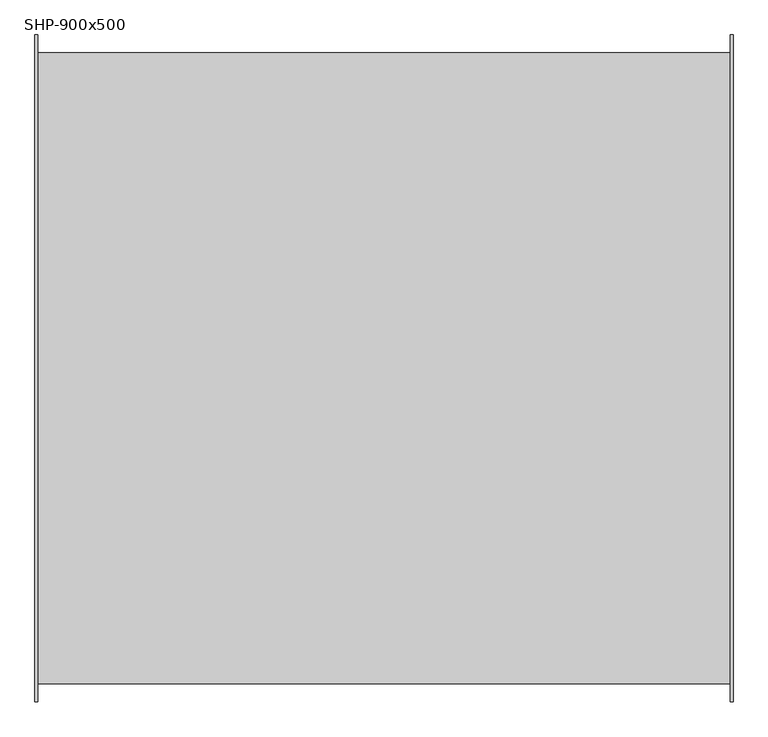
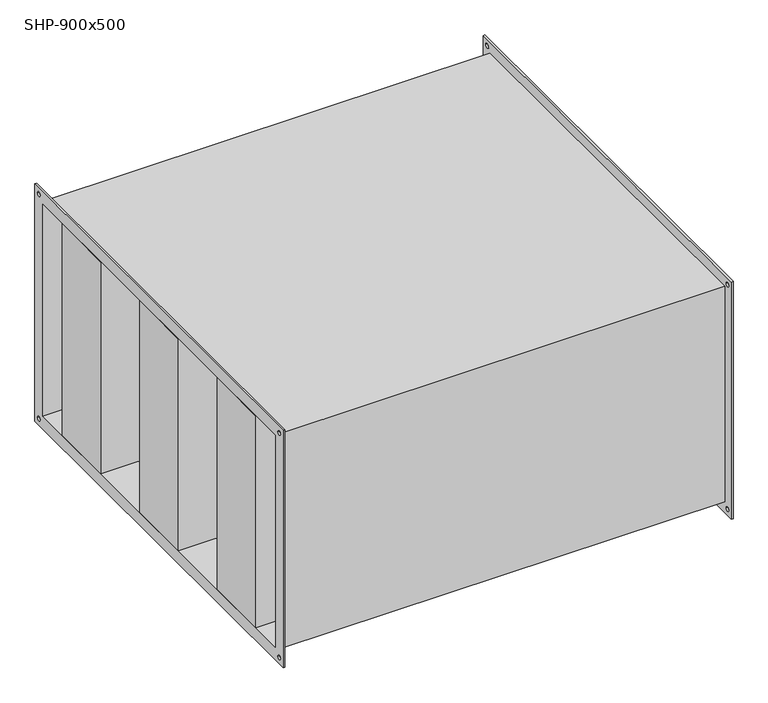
"""IFC4 building model written with IfcOpenShell, lengths in millimetres: damper geometry, СВ_Шумоглушитель_КанальныйПрямоугольный_200-1000_SHP : SHP-900x500."""

import ifcopenshell
import ifcopenshell.guid

model = None  # the IFC model being written
_history = None  # IfcOwnerHistory: only IFC2X3 demands one
_inside = {}  # id of a spatial element -> (the spatial element, [elements in it])
_under = {}  # id of a project, library or spatial element -> (it, [spatial elements below it])
_declared = {}  # id of a project -> (the project, [libraries it declares])
_typed = {}  # id of a type object -> (the type object, [elements of that type])
_made_of = {}  # id of a material, layer set ... -> (it, [elements and type objects made of it])


def new_model(schema):
    """Start an empty IFC model of exactly this schema.

    Asked for "IFC4X3", IfcOpenShell would pick the latest addendum, in which some entities
    have other attributes; the version numbers below select the first issue.
    IFC2X3 requires an IfcOwnerHistory on every rooted entity: one is made here for all.
    """
    global model, _history
    if schema == "IFC4X3":
        model = ifcopenshell.file(schema_version=(4, 3, 0, 0))
    else:
        model = ifcopenshell.file(schema=schema)
    _inside.clear()
    _under.clear()
    _declared.clear()
    _typed.clear()
    _made_of.clear()
    _history = None
    if model.schema == "IFC2X3":
        org = make("IfcOrganization", Name="unknown")
        user = make(
            "IfcPersonAndOrganization",
            ThePerson=make("IfcPerson", FamilyName="unknown"),
            TheOrganization=org,
        )
        app = make(
            "IfcApplication",
            ApplicationDeveloper=org,
            Version="unknown",
            ApplicationFullName="unknown",
            ApplicationIdentifier="unknown",
        )
        _history = make(
            "IfcOwnerHistory",
            OwningUser=user,
            OwningApplication=app,
            ChangeAction="ADDED",
            CreationDate=0,
        )
    return model


def make(cls, **values):
    """One entity of the class cls with the attributes given. An attribute that is None is left unset."""
    return model.create_entity(
        cls, **{name: value for name, value in values.items() if value is not None}
    )


def rooted(cls, **values):
    """An entity with a GlobalId (a new one), such as an element, a storey or a relation."""
    return make(cls, GlobalId=ifcopenshell.guid.new(), OwnerHistory=_history, **values)


def si_unit(unit_type, name, prefix=None):
    """IfcSIUnit, for example si_unit("LENGTHUNIT", "METRE", prefix="MILLI")."""
    return make("IfcSIUnit", UnitType=unit_type, Prefix=prefix, Name=name)


def assignment(units):
    """IfcUnitAssignment: the units of a project."""
    return None if units is None else make("IfcUnitAssignment", Units=units)


def point(xyz):
    """IfcCartesianPoint."""
    return None if xyz is None else make("IfcCartesianPoint", Coordinates=xyz)


def direction(xyz):
    """IfcDirection."""
    return None if xyz is None else make("IfcDirection", DirectionRatios=xyz)


def frame(location, z_axis=None, x_axis=None):
    """IfcAxis2Placement3D, a coordinate frame: its origin and axes. An axis left out is left unset."""
    return make(
        "IfcAxis2Placement3D",
        Location=point(location),
        Axis=direction(z_axis),
        RefDirection=direction(x_axis),
    )


def origin():
    """The frame at (0, 0, 0) with its axes left unset."""
    return frame((0.0, 0.0, 0.0))


def place(relative_to, where):
    """IfcLocalPlacement: puts the frame where relative to a parent placement (None: the world)."""
    return make(
        "IfcLocalPlacement", PlacementRelTo=relative_to, RelativePlacement=where
    )


def context(
    kind, dimensions, precision=None, world=None, true_north=None, identifier=None
):
    """IfcGeometricRepresentationContext, for example the 3D "Model" context."""
    return make(
        "IfcGeometricRepresentationContext",
        ContextIdentifier=identifier,
        ContextType=kind,
        CoordinateSpaceDimension=dimensions,
        Precision=precision,
        WorldCoordinateSystem=world,
        TrueNorth=true_north,
    )


def project(units=None, contexts=None):
    """IfcProject with its units and contexts."""
    return rooted(
        "IfcProject",
        Name="project",
        RepresentationContexts=contexts,
        UnitsInContext=assignment(units),
    )


def spatial(cls, under=None, at=None, **own):
    """A site, building, storey or space (cls), placed at a placement, below another one or the project."""
    s = rooted(cls, ObjectPlacement=at, **own)
    if under is not None:
        _under.setdefault(under.id(), (under, []))[1].append(s)
    return s


def polyline(points):
    """IfcPolyline through the points."""
    return make("IfcPolyline", Points=[point(p) for p in points])


def circle_curve(where, radius):
    """IfcCircle in the frame where."""
    return make("IfcCircle", Position=where, Radius=radius)


def outline(outer, holes=None, kind="AREA"):
    """IfcArbitraryClosedProfileDef: a profile drawn as a closed curve; with holes, ...WithVoids."""
    if holes is None:
        return make("IfcArbitraryClosedProfileDef", ProfileType=kind, OuterCurve=outer)
    return make(
        "IfcArbitraryProfileDefWithVoids",
        ProfileType=kind,
        OuterCurve=outer,
        InnerCurves=holes,
    )


def extrude(swept, where, along, depth):
    """IfcExtrudedAreaSolid: the profile swept, set in the frame where, extruded along a direction by depth."""
    return make(
        "IfcExtrudedAreaSolid",
        SweptArea=swept,
        Position=where,
        ExtrudedDirection=direction(along),
        Depth=depth,
    )


def shape(context_of_items, identifier, shape_type, items):
    """IfcShapeRepresentation: the items that make up one representation, for example the "Body"."""
    return make(
        "IfcShapeRepresentation",
        ContextOfItems=context_of_items,
        RepresentationIdentifier=identifier,
        RepresentationType=shape_type,
        Items=items,
    )


def source(mapping_origin, context_of_items, identifier, shape_type, items):
    """IfcRepresentationMap: a shape defined once, which mapped items show again and again."""
    return make(
        "IfcRepresentationMap",
        MappingOrigin=mapping_origin,
        MappedRepresentation=shape(context_of_items, identifier, shape_type, items),
    )


def transform(
    local_origin,
    x_axis=None,
    y_axis=None,
    z_axis=None,
    scale=None,
    scale2=None,
    scale3=None,
    uniform=True,
):
    """IfcCartesianTransformationOperator3D, or its non-uniform kind. x_axis, y_axis, z_axis: its Axis1, 2, 3."""
    if uniform:
        return make(
            "IfcCartesianTransformationOperator3D",
            Axis1=direction(x_axis),
            Axis2=direction(y_axis),
            LocalOrigin=point(local_origin),
            Scale=scale,
            Axis3=direction(z_axis),
        )
    return make(
        "IfcCartesianTransformationOperator3DnonUniform",
        Axis1=direction(x_axis),
        Axis2=direction(y_axis),
        LocalOrigin=point(local_origin),
        Scale=scale,
        Axis3=direction(z_axis),
        Scale2=scale2,
        Scale3=scale3,
    )


def mapped(mapping_source, mapping_target):
    """IfcMappedItem: shows the shape of a source again, moved by a transform."""
    return make(
        "IfcMappedItem", MappingSource=mapping_source, MappingTarget=mapping_target
    )


def made_of(thing, what):
    """Note that an element or type object is made of a material, layer set ...; save() writes the relation."""
    if what is not None:
        _made_of.setdefault(what.id(), (what, []))[1].append(thing)
    return thing


def element(
    cls,
    number,
    at=None,
    inside=None,
    cuts=None,
    type_object=None,
    material=None,
    context=None,
    identifier="Body",
    shape_type=None,
    held_by="IfcProductDefinitionShape",
    body=None,
    shapes=None,
    **own,
):
    """One element of the class cls, such as IfcWall. Its Tag is "e" and its number.

    at: its placement. inside: the storey or other place that contains it. cuts: it is an
    opening in that element (IfcRelVoidsElement). A single representation is given by context,
    identifier, shape_type and body (its items); several are given by shapes. held_by: the class
    of the entity that holds the representations. save() writes the other relations.
    """
    e = rooted(cls, Tag="e%d" % number, ObjectPlacement=at, **own)
    if body is not None:
        shapes = [shape(context, identifier, shape_type, body)]
    if shapes is not None:
        e.Representation = make(held_by, Representations=shapes)
    if inside is not None:
        _inside.setdefault(inside.id(), (inside, []))[1].append(e)
    if cuts is not None:
        rooted(
            "IfcRelVoidsElement", RelatingBuildingElement=cuts, RelatedOpeningElement=e
        )
    if type_object is not None:
        _typed.setdefault(type_object.id(), (type_object, []))[1].append(e)
    return made_of(e, material)


def aggregate(whole, parts):
    """IfcRelAggregates: a whole, such as a stair, and the parts it consists of."""
    return rooted("IfcRelAggregates", RelatingObject=whole, RelatedObjects=parts)


def save(model, path):
    """Write the relations noted so far, then the file.

    IfcRelAggregates (storeys below a building ...), IfcRelContainedInSpatialStructure (elements
    in a storey), IfcRelDefinesByType, IfcRelAssociatesMaterial and IfcRelDeclares: one each for
    every whole, place, type object, material and project.
    """
    for whole, parts in _under.values():
        aggregate(whole, parts)
    for where, things in _inside.values():
        rooted(
            "IfcRelContainedInSpatialStructure",
            RelatedElements=things,
            RelatingStructure=where,
        )
    for kind, things in _typed.values():
        rooted("IfcRelDefinesByType", RelatedObjects=things, RelatingType=kind)
    for what, things in _made_of.values():
        rooted("IfcRelAssociatesMaterial", RelatedObjects=things, RelatingMaterial=what)
    for by, libraries in _declared.values():
        rooted("IfcRelDeclares", RelatingContext=by, RelatedDefinitions=libraries)
    model.write(path)


def plane_surface(at):
    """IfcPlane: the flat surface through the origin of the frame at, square to its z axis."""
    return make("IfcPlane", Position=at)


def revolved_surface(curve, axis_point, axis_direction):
    """IfcSurfaceOfRevolution: the curve turned about the line through axis_point along axis_direction."""
    return make(
        "IfcSurfaceOfRevolution",
        SweptCurve=make("IfcArbitraryOpenProfileDef", ProfileType="CURVE", Curve=curve),
        AxisPosition=make("IfcAxis1Placement", Location=point(axis_point), Axis=direction(axis_direction)),
    )


def advanced_brep(points, edges, surfaces, faces):
    """IfcAdvancedBrep: a solid bounded by faces that lie on surfaces and meet in shared edges.

    An edge is (start, end): straight between two places in points (the first is 0);
    or (start, end, curve); or (start, end, curve, False) where it runs against its curve.
    A face is (place in surfaces, loops), or (place, loops, False) where it looks against
    its surface's normal. A loop lists edges by number (the first is 1), with a minus sign
    where the edge is run from its end to its start. The first loop is the outer one.
    """
    corners = [point(p) for p in points]
    vertices = [make("IfcVertexPoint", VertexGeometry=c) for c in corners]
    made = []
    for start, end, *more in edges:
        made.append(
            make(
                "IfcEdgeCurve",
                EdgeStart=vertices[start],
                EdgeEnd=vertices[end],
                EdgeGeometry=more[0] if more else make("IfcPolyline", Points=[corners[start], corners[end]]),
                SameSense=more[1] if len(more) > 1 else True,
            )
        )
    hull = []
    for where, loops, *sense in faces:
        bounds = []
        for j, loop in enumerate(loops):
            ring = [make("IfcOrientedEdge", EdgeElement=made[abs(k) - 1], Orientation=k > 0) for k in loop]
            bounds.append(
                make(
                    "IfcFaceOuterBound" if j == 0 else "IfcFaceBound",
                    Bound=make("IfcEdgeLoop", EdgeList=ring),
                    Orientation=True,
                )
            )
        hull.append(make("IfcAdvancedFace", Bounds=bounds, FaceSurface=surfaces[where], SameSense=sense[0] if sense else True))
    return make("IfcAdvancedBrep", Outer=make("IfcClosedShell", CfsFaces=hull))


def shp_900x500_852b0d35(model_context):
    return source(origin(), model_context, "Body", "SolidModel", [
        extrude(outline(polyline([(502.5, 375.0), (502.5, 225.0), (-502.5, 225.0), (-502.5, 375.0), (502.5, 375.0)])), frame((0.0, 0.0, -250.0), z_axis=(0.0, 0.0, 1.0), x_axis=(1.0, 0.0, 0.0)), (0.0, 0.0, 1.0), 500.0),
        extrude(outline(polyline([(502.5, 75.0), (502.5, -75.0), (-502.5, -75.0), (-502.5, 75.0), (502.5, 75.0)])), frame((0.0, 0.0, -250.0), z_axis=(0.0, 0.0, 1.0), x_axis=(1.0, 0.0, 0.0)), (0.0, 0.0, 1.0), 500.0),
        extrude(outline(polyline([(502.5, -225.0), (502.5, -375.0), (-502.5, -375.0), (-502.5, -225.0), (502.5, -225.0)])), frame((0.0, 0.0, -250.0), z_axis=(0.0, 0.0, 1.0), x_axis=(1.0, 0.0, 0.0)), (0.0, 0.0, 1.0), 500.0),
        advanced_brep(
        [(498.5, -454.0, 254.0), (-498.5, -454.0, 254.0), (-498.5, -454.0, -254.0), (498.5, -454.0, -254.0), (-498.5, 454.0, -254.0), (498.5, 454.0, -254.0), (-498.5, 454.0, 254.0), (498.5, 454.0, 254.0), (-502.5, -480.0, 280.0), (-502.5, 480.0, 280.0), (-502.5, 480.0, -280.0), (-502.5, -480.0, -280.0), (-502.5, -450.0, 250.0), (-502.5, -450.0, -250.0), (-502.5, 450.0, -250.0), (-502.5, 450.0, 250.0), (-502.5, 460.0, 265.0), (-502.5, 470.0, 265.0), (-502.5, -470.0, 265.0), (-502.5, -460.0, 265.0), (-502.5, -470.0, -265.0), (-502.5, -460.0, -265.0), (-502.5, 460.0, -265.0), (-502.5, 470.0, -265.0), (-498.5, -480.0, 280.0), (-498.5, -480.0, -280.0), (-498.5, 480.0, -280.0), (-498.5, 480.0, 280.0), (-498.5, 470.0, 265.0), (-498.5, 460.0, 265.0), (-498.5, -460.0, 265.0), (-498.5, -470.0, 265.0), (-498.5, -460.0, -265.0), (-498.5, -470.0, -265.0), (-498.5, 470.0, -265.0), (-498.5, 460.0, -265.0), (498.5, 480.0, 280.0), (498.5, 480.0, -280.0), (498.5, -480.0, -280.0), (498.5, -480.0, 280.0), (498.5, 460.0, 265.0), (498.5, 470.0, 265.0), (498.5, -470.0, 265.0), (498.5, -460.0, 265.0), (498.5, -470.0, -265.0), (498.5, -460.0, -265.0), (498.5, 460.0, -265.0), (498.5, 470.0, -265.0), (502.5, 480.0, 280.0), (502.5, -480.0, 280.0), (502.5, -480.0, -280.0), (502.5, 480.0, -280.0), (502.5, 450.0, 250.0), (502.5, 450.0, -250.0), (502.5, -450.0, -250.0), (502.5, -450.0, 250.0), (502.5, 470.0, 265.0), (502.5, 460.0, 265.0), (502.5, -460.0, 265.0), (502.5, -470.0, 265.0), (502.5, -460.0, -265.0), (502.5, -470.0, -265.0), (502.5, 470.0, -265.0), (502.5, 460.0, -265.0)],
        [
            (0, 1),
            (1, 2),
            (2, 3),
            (3, 0),
            (2, 4),
            (4, 5),
            (5, 3),
            (4, 6),
            (6, 7),
            (7, 5),
            (0, 7),
            (6, 1),
            (8, 9),
            (9, 10),
            (10, 11),
            (11, 8),
            (12, 13),
            (13, 14),
            (14, 15),
            (15, 12),
            (16, 17, circle_curve(frame((-502.5, 465.0, 265.0), z_axis=(1.0, 0.0, 0.0), x_axis=(0.0, 1.0, 0.0)), 5.0)),
            (17, 16, circle_curve(frame((-502.5, 465.0, 265.0), z_axis=(1.0, 0.0, 0.0), x_axis=(0.0, 1.0, 0.0)), 5.0)),
            (18, 19, circle_curve(frame((-502.5, -465.0, 265.0), z_axis=(1.0, 0.0, 0.0), x_axis=(0.0, 1.0, 0.0)), 5.0)),
            (19, 18, circle_curve(frame((-502.5, -465.0, 265.0), z_axis=(1.0, 0.0, 0.0), x_axis=(0.0, 1.0, 0.0)), 5.0)),
            (20, 21, circle_curve(frame((-502.5, -465.0, -265.0), z_axis=(1.0, 0.0, 0.0), x_axis=(0.0, 1.0, 0.0)), 5.0)),
            (21, 20, circle_curve(frame((-502.5, -465.0, -265.0), z_axis=(1.0, 0.0, 0.0), x_axis=(0.0, 1.0, 0.0)), 5.0)),
            (22, 23, circle_curve(frame((-502.5, 465.0, -265.0), z_axis=(1.0, 0.0, 0.0), x_axis=(0.0, 1.0, 0.0)), 5.0)),
            (23, 22, circle_curve(frame((-502.5, 465.0, -265.0), z_axis=(1.0, 0.0, 0.0), x_axis=(0.0, 1.0, 0.0)), 5.0)),
            (24, 25),
            (25, 26),
            (26, 27),
            (27, 24),
            (28, 29, circle_curve(frame((-498.5, 465.0, 265.0), z_axis=(-1.0, 0.0, 0.0), x_axis=(0.0, 1.0, 0.0)), 5.0)),
            (29, 28, circle_curve(frame((-498.5, 465.0, 265.0), z_axis=(-1.0, 0.0, 0.0), x_axis=(0.0, 1.0, 0.0)), 5.0)),
            (30, 31, circle_curve(frame((-498.5, -465.0, 265.0), z_axis=(-1.0, 0.0, 0.0), x_axis=(0.0, 1.0, 0.0)), 5.0)),
            (31, 30, circle_curve(frame((-498.5, -465.0, 265.0), z_axis=(-1.0, 0.0, 0.0), x_axis=(0.0, 1.0, 0.0)), 5.0)),
            (32, 33, circle_curve(frame((-498.5, -465.0, -265.0), z_axis=(-1.0, 0.0, 0.0), x_axis=(0.0, 1.0, 0.0)), 5.0)),
            (33, 32, circle_curve(frame((-498.5, -465.0, -265.0), z_axis=(-1.0, 0.0, 0.0), x_axis=(0.0, 1.0, 0.0)), 5.0)),
            (34, 35, circle_curve(frame((-498.5, 465.0, -265.0), z_axis=(-1.0, 0.0, 0.0), x_axis=(0.0, 1.0, 0.0)), 5.0)),
            (35, 34, circle_curve(frame((-498.5, 465.0, -265.0), z_axis=(-1.0, 0.0, 0.0), x_axis=(0.0, 1.0, 0.0)), 5.0)),
            (11, 25),
            (24, 8),
            (10, 26),
            (9, 27),
            (36, 37),
            (37, 38),
            (38, 39),
            (39, 36),
            (40, 41, circle_curve(frame((498.5, 465.0, 265.0), z_axis=(1.0, 0.0, 0.0), x_axis=(0.0, 1.0, 0.0)), 5.0)),
            (41, 40, circle_curve(frame((498.5, 465.0, 265.0), z_axis=(1.0, 0.0, 0.0), x_axis=(0.0, 1.0, 0.0)), 5.0)),
            (42, 43, circle_curve(frame((498.5, -465.0, 265.0), z_axis=(1.0, 0.0, 0.0), x_axis=(0.0, 1.0, 0.0)), 5.0)),
            (43, 42, circle_curve(frame((498.5, -465.0, 265.0), z_axis=(1.0, 0.0, 0.0), x_axis=(0.0, 1.0, 0.0)), 5.0)),
            (44, 45, circle_curve(frame((498.5, -465.0, -265.0), z_axis=(1.0, 0.0, 0.0), x_axis=(0.0, 1.0, 0.0)), 5.0)),
            (45, 44, circle_curve(frame((498.5, -465.0, -265.0), z_axis=(1.0, 0.0, 0.0), x_axis=(0.0, 1.0, 0.0)), 5.0)),
            (46, 47, circle_curve(frame((498.5, 465.0, -265.0), z_axis=(1.0, 0.0, 0.0), x_axis=(0.0, 1.0, 0.0)), 5.0)),
            (47, 46, circle_curve(frame((498.5, 465.0, -265.0), z_axis=(1.0, 0.0, 0.0), x_axis=(0.0, 1.0, 0.0)), 5.0)),
            (48, 49),
            (49, 50),
            (50, 51),
            (51, 48),
            (52, 53),
            (53, 54),
            (54, 55),
            (55, 52),
            (56, 57, circle_curve(frame((502.5, 465.0, 265.0), z_axis=(-1.0, 0.0, 0.0), x_axis=(0.0, 1.0, 0.0)), 5.0)),
            (57, 56, circle_curve(frame((502.5, 465.0, 265.0), z_axis=(-1.0, 0.0, 0.0), x_axis=(0.0, 1.0, 0.0)), 5.0)),
            (58, 59, circle_curve(frame((502.5, -465.0, 265.0), z_axis=(-1.0, 0.0, 0.0), x_axis=(0.0, 1.0, 0.0)), 5.0)),
            (59, 58, circle_curve(frame((502.5, -465.0, 265.0), z_axis=(-1.0, 0.0, 0.0), x_axis=(0.0, 1.0, 0.0)), 5.0)),
            (60, 61, circle_curve(frame((502.5, -465.0, -265.0), z_axis=(-1.0, 0.0, 0.0), x_axis=(0.0, 1.0, 0.0)), 5.0)),
            (61, 60, circle_curve(frame((502.5, -465.0, -265.0), z_axis=(-1.0, 0.0, 0.0), x_axis=(0.0, 1.0, 0.0)), 5.0)),
            (62, 63, circle_curve(frame((502.5, 465.0, -265.0), z_axis=(-1.0, 0.0, 0.0), x_axis=(0.0, 1.0, 0.0)), 5.0)),
            (63, 62, circle_curve(frame((502.5, 465.0, -265.0), z_axis=(-1.0, 0.0, 0.0), x_axis=(0.0, 1.0, 0.0)), 5.0)),
            (39, 49),
            (48, 36),
            (38, 50),
            (37, 51),
            (15, 52),
            (55, 12),
            (14, 53),
            (13, 54),
            (16, 29),
            (28, 17),
            (40, 57),
            (56, 41),
            (18, 31),
            (30, 19),
            (42, 59),
            (58, 43),
            (20, 33),
            (32, 21),
            (44, 61),
            (60, 45),
            (22, 35),
            (34, 23),
            (46, 63),
            (62, 47),
        ],
        [
            plane_surface(frame((498.5, -454.0, 254.0), z_axis=(0.0, -1.0, 0.0), x_axis=(-1.0, 0.0, 0.0))),
            plane_surface(frame((498.5, -454.0, -254.0), z_axis=(0.0, 0.0, -1.0), x_axis=(-1.0, 0.0, 0.0))),
            plane_surface(frame((498.5, 454.0, -254.0), z_axis=(0.0, 1.0, 0.0), x_axis=(-1.0, 0.0, 0.0))),
            plane_surface(frame((498.5, 454.0, 254.0), z_axis=(0.0, 0.0, 1.0), x_axis=(-1.0, 0.0, 0.0))),
            plane_surface(frame((-502.5, -480.0, 280.0), z_axis=(-1.0, 0.0, 0.0), x_axis=(0.0, 0.0, 1.0))),
            plane_surface(frame((-498.5, -480.0, 280.0), z_axis=(1.0, 0.0, 0.0), x_axis=(0.0, 0.0, -1.0))),
            plane_surface(frame((-498.5, -480.0, 280.0), z_axis=(0.0, -1.0, 0.0), x_axis=(-1.0, 0.0, 0.0))),
            plane_surface(frame((-498.5, -480.0, -280.0), z_axis=(0.0, 0.0, -1.0), x_axis=(-1.0, 0.0, 0.0))),
            plane_surface(frame((-498.5, 480.0, -280.0), z_axis=(0.0, 1.0, 0.0), x_axis=(-1.0, 0.0, 0.0))),
            plane_surface(frame((-498.5, 480.0, 280.0), z_axis=(0.0, 0.0, 1.0), x_axis=(-1.0, 0.0, 0.0))),
            plane_surface(frame((498.5, 450.0, -250.0), z_axis=(-1.0, 0.0, 0.0), x_axis=(0.0, 0.0, 1.0))),
            plane_surface(frame((502.5, 450.0, -250.0), z_axis=(1.0, 0.0, 0.0), x_axis=(0.0, 0.0, -1.0))),
            plane_surface(frame((502.5, 480.0, 280.0), z_axis=(0.0, 0.0, 1.0), x_axis=(-1.0, 0.0, 0.0))),
            plane_surface(frame((502.5, -480.0, 280.0), z_axis=(0.0, -1.0, 0.0), x_axis=(-1.0, 0.0, 0.0))),
            plane_surface(frame((502.5, -480.0, -280.0), z_axis=(0.0, 0.0, -1.0), x_axis=(-1.0, 0.0, 0.0))),
            plane_surface(frame((502.5, 480.0, -280.0), z_axis=(0.0, 1.0, 0.0), x_axis=(-1.0, 0.0, 0.0))),
            plane_surface(frame((-498.5, -450.0, 250.0), z_axis=(0.0, 0.0, -1.0), x_axis=(-1.0, 0.0, 0.0))),
            plane_surface(frame((-498.5, 450.0, 250.0), z_axis=(0.0, -1.0, 0.0), x_axis=(-1.0, 0.0, 0.0))),
            plane_surface(frame((-498.5, 450.0, -250.0), z_axis=(0.0, 0.0, 1.0), x_axis=(-1.0, 0.0, 0.0))),
            plane_surface(frame((-498.5, -450.0, -250.0), z_axis=(0.0, 1.0, 0.0), x_axis=(-1.0, 0.0, 0.0))),
            revolved_surface(polyline([(-498.5, 470.0, 265.0), (-502.5, 470.0, 265.0)]), (-502.5, 465.0, 265.0), (1.0, 0.0, 0.0)),
            revolved_surface(polyline([(502.5, 470.0, 265.0), (498.5, 470.0, 265.0)]), (-502.5, 465.0, 265.0), (1.0, 0.0, 0.0)),
            revolved_surface(polyline([(-498.5, -460.0, 265.0), (-502.5, -460.0, 265.0)]), (0.0, -465.0, 265.0), (1.0, 0.0, 0.0)),
            revolved_surface(polyline([(502.5, -460.0, 265.0), (498.5, -460.0, 265.0)]), (0.0, -465.0, 265.0), (1.0, 0.0, 0.0)),
            revolved_surface(polyline([(-498.5, -460.0, -265.0), (-502.5, -460.0, -265.0)]), (0.0, -465.0, -265.0), (1.0, 0.0, 0.0)),
            revolved_surface(polyline([(502.5, -460.0, -265.0), (498.5, -460.0, -265.0)]), (0.0, -465.0, -265.0), (1.0, 0.0, 0.0)),
            revolved_surface(polyline([(-498.5, 470.0, -265.0), (-502.5, 470.0, -265.0)]), (0.0, 465.0, -265.0), (1.0, 0.0, 0.0)),
            revolved_surface(polyline([(502.5, 470.0, -265.0), (498.5, 470.0, -265.0)]), (0.0, 465.0, -265.0), (1.0, 0.0, 0.0)),
        ],
        [
            (0, [[1, 2, 3, 4]]),
            (1, [[-3, 5, 6, 7]]),
            (2, [[-6, 8, 9, 10]]),
            (3, [[-1, 11, -9, 12]]),
            (4, [[13, 14, 15, 16], [17, 18, 19, 20], [21, 22], [23, 24], [25, 26], [27, 28]]),
            (5, [[29, 30, 31, 32], [-2, -12, -8, -5], [33, 34], [35, 36], [37, 38], [39, 40]]),
            (6, [[-16, 41, -29, 42]]),
            (7, [[-15, 43, -30, -41]]),
            (8, [[-14, 44, -31, -43]]),
            (9, [[-13, -42, -32, -44]]),
            (10, [[45, 46, 47, 48], [-4, -7, -10, -11], [49, 50], [51, 52], [53, 54], [55, 56]]),
            (11, [[57, 58, 59, 60], [61, 62, 63, 64], [65, 66], [67, 68], [69, 70], [71, 72]]),
            (12, [[-48, 73, -57, 74]]),
            (13, [[-47, 75, -58, -73]]),
            (14, [[-46, 76, -59, -75]]),
            (15, [[-45, -74, -60, -76]]),
            (16, [[-20, 77, -64, 78]]),
            (17, [[-77, -19, 79, -61]]),
            (18, [[-79, -18, 80, -62]]),
            (19, [[-80, -17, -78, -63]]),
            (20, [[81, -33, 82, -21]]),
            (21, [[83, -65, 84, -49]]),
            (20, [[-81, -22, -82, -34]]),
            (21, [[-83, -50, -84, -66]]),
            (22, [[85, -35, 86, -23]]),
            (23, [[87, -67, 88, -51]]),
            (22, [[-85, -24, -86, -36]]),
            (23, [[-87, -52, -88, -68]]),
            (24, [[89, -37, 90, -25]]),
            (25, [[91, -69, 92, -53]]),
            (24, [[-89, -26, -90, -38]]),
            (25, [[-91, -54, -92, -70]]),
            (26, [[93, -39, 94, -27]]),
            (27, [[95, -71, 96, -55]]),
            (26, [[-93, -28, -94, -40]]),
            (27, [[-95, -56, -96, -72]]),
        ],
    ),
    ])


if __name__ == "__main__":
    model = new_model("IFC4")
    model_context = context("Model", 3, world=origin())
    ifc_project = project(units=[si_unit("LENGTHUNIT", "METRE", prefix="MILLI")], contexts=[model_context])
    site = spatial("IfcSite", under=ifc_project)
    building = spatial("IfcBuilding", under=site)
    placement = place(None, origin())
    shp_900x500_shape = shp_900x500_852b0d35(model_context)
    element("IfcDamper", 1, ObjectType="СВ_Шумоглушитель_КанальныйПрямоугольный_200-1000_SHP : SHP-900x500", at=placement, inside=building, context=model_context, shape_type="MappedRepresentation", body=[
        mapped(shp_900x500_shape, transform((0.0, 0.0, 0.0), x_axis=(1.0, 0.0, 0.0), y_axis=(0.0, 1.0, 0.0), z_axis=(0.0, 0.0, 1.0))),
    ])
    save(model, "model.ifc")
